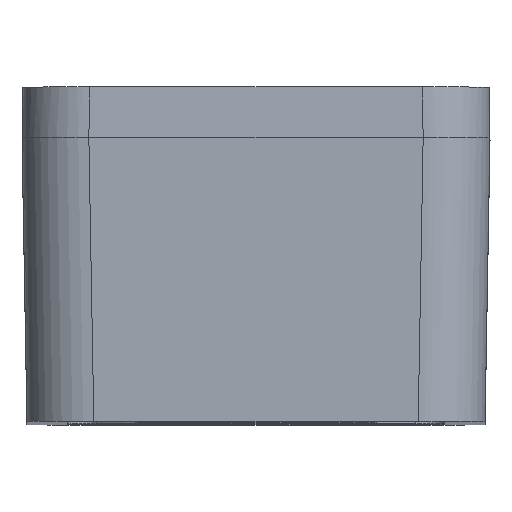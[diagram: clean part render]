
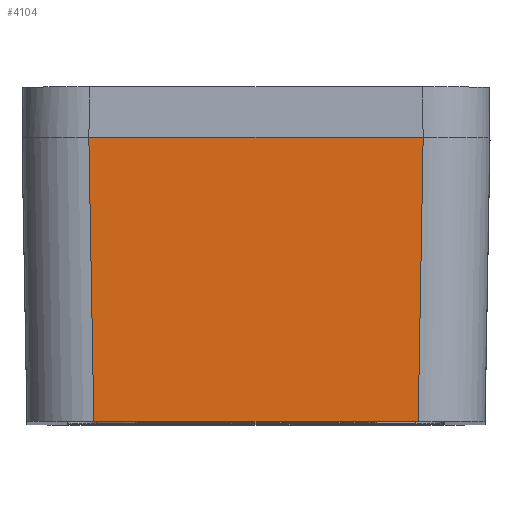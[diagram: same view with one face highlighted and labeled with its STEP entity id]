
A CAD part, top view. The second image highlights one B-rep face of the part: STEP entity #4104.
In plain terms, the highlighted planar face has unit normal (0, -0.018, 1).
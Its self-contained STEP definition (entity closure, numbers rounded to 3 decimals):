
#216 = ORIENTED_EDGE ( 'NONE', *, *, #3228, .T. ) ;
#490 = DIRECTION ( 'NONE',  ( 0.017, 1., 0.017 ) ) ;
#811 = ORIENTED_EDGE ( 'NONE', *, *, #14135, .T. ) ;
#1175 = CARTESIAN_POINT ( 'NONE',  ( 4.852, -10., 32.352 ) ) ;
#1190 = CARTESIAN_POINT ( 'NONE',  ( 0., -10., 32.352 ) ) ;
#2525 = EDGE_LOOP ( 'NONE', ( #811, #14603, #6141, #216 ) ) ;
#3228 = EDGE_CURVE ( 'NONE', #14751, #12779, #11099, .T. ) ;
#3356 = VECTOR ( 'NONE', #490, 1000. ) ;
#3382 = LINE ( 'NONE', #14714, #6634 ) ;
#3835 = DIRECTION ( 'NONE',  ( 0., -0.017, 1. ) ) ;
#4104 = ADVANCED_FACE ( 'NONE', ( #5250 ), #7404, .T. ) ;
#4125 = VECTOR ( 'NONE', #5918, 1000. ) ;
#5250 = FACE_OUTER_BOUND ( 'NONE', #2525, .T. ) ;
#5396 = EDGE_CURVE ( 'NONE', #14751, #8487, #3382, .T. ) ;
#5918 = DIRECTION ( 'NONE',  ( 1., 0., 0. ) ) ;
#6141 = ORIENTED_EDGE ( 'NONE', *, *, #5396, .F. ) ;
#6239 = CARTESIAN_POINT ( 'NONE',  ( 0., -1.5, 32.5 ) ) ;
#6634 = VECTOR ( 'NONE', #8448, 1000. ) ;
#7401 = DIRECTION ( 'NONE',  ( 0.017, -1., -0.017 ) ) ;
#7404 = PLANE ( 'NONE',  #13765 ) ;
#7412 = LINE ( 'NONE', #1190, #4125 ) ;
#7562 = CARTESIAN_POINT ( 'NONE',  ( -4.999, -1.587, 32.498 ) ) ;
#8218 = VERTEX_POINT ( 'NONE', #1175 ) ;
#8296 = CARTESIAN_POINT ( 'NONE',  ( 4.999, -1.587, 32.498 ) ) ;
#8448 = DIRECTION ( 'NONE',  ( 1., 0., 0. ) ) ;
#8454 = CARTESIAN_POINT ( 'NONE',  ( -5., -1.5, 32.5 ) ) ;
#8487 = VERTEX_POINT ( 'NONE', #10599 ) ;
#8968 = DIRECTION ( 'NONE',  ( 0., -1., -0.017 ) ) ;
#10599 = CARTESIAN_POINT ( 'NONE',  ( 5., -1.5, 32.5 ) ) ;
#11099 = LINE ( 'NONE', #7562, #11925 ) ;
#11925 = VECTOR ( 'NONE', #7401, 1000. ) ;
#12779 = VERTEX_POINT ( 'NONE', #14607 ) ;
#13765 = AXIS2_PLACEMENT_3D ( 'NONE', #6239, #3835, #8968 ) ;
#14135 = EDGE_CURVE ( 'NONE', #12779, #8218, #7412, .T. ) ;
#14603 = ORIENTED_EDGE ( 'NONE', *, *, #15642, .T. ) ;
#14607 = CARTESIAN_POINT ( 'NONE',  ( -4.852, -10., 32.352 ) ) ;
#14714 = CARTESIAN_POINT ( 'NONE',  ( 0., -1.5, 32.5 ) ) ;
#14751 = VERTEX_POINT ( 'NONE', #8454 ) ;
#15642 = EDGE_CURVE ( 'NONE', #8218, #8487, #15711, .T. ) ;
#15711 = LINE ( 'NONE', #8296, #3356 ) ;
